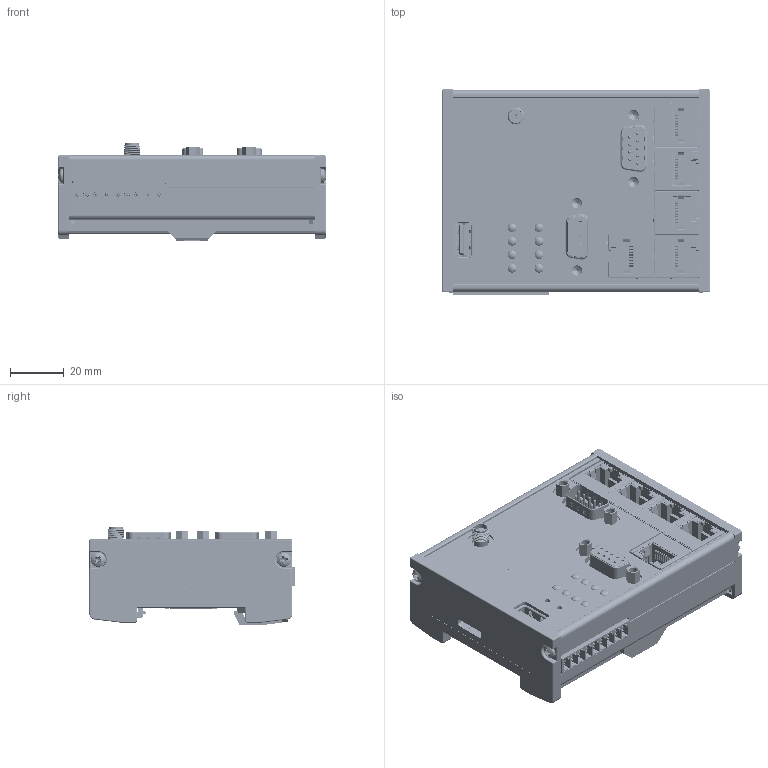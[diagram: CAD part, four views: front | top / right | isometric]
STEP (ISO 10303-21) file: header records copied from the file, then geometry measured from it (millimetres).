
FILE_DESCRIPTION (( 'STEP AP214' ), '1' );
FILE_NAME ('700-878-WIF01_V00-00.STEP', '2019-03-25T06:23:20', ( '' ), ( '' ), 'SwSTEP 2.0', 'SolidWorks 2018', '' );
FILE_SCHEMA (( 'AUTOMOTIVE_DESIGN' ));
Length unit declared in the file: millimetre
Products named in the file (59): Kopie von Kopie von Open CASCADE STEP translator 6.8 8.89.1.1^SMA-J-P-X-ST Dummy V00-00; g-alu-002_V00-00_RAL 6034; PLP2-xxx V00-11; m-k30x08-bj V 00-10; g-alu-086 V 00-03_cutout for 3.81 grid; Dummy_RJ45; SchraubefürHutschienenclip; 6917013400xxB_PIN; g-alu-086 V 00-03; ps-alu-004_V00-02_RAL 6034; Artikelnummer; g-mpi-010 V00-00; 09; D SUB 9P female - FL09S7-K121 (FCT); g-alu-002_V00-00; g-alu-001 V01-02; C-1734366-005; 700-878-WIF01_V00-00; SMA-J-P-X-ST Dummy V00-00; ps-alu-204_V00-03_WAN; D SUB 9P male - FL09P7-K120 (FCT); ps-alu-204_V00-03; ps-alu-004_V00-02; 691701340009B (rev1); PLP2-xxx V00-11_PLP2-125
Assembly tree (41 placements, depth 3):
  PLP2-xxx V00-11
  m-k30x08-bj V 00-10
  Dummy_RJ45
  6917013400xxB_PIN
  g-alu-086 V 00-03
Bounding box: 99.5 x 76.2 x 36.67 mm (x, y, z)
Volume: 68506.7 mm3; surface area: 92263.4 mm2
Topology: 76 solids, 76 shells, 6820 faces, 18020 edges, 11547 vertices
Faces by surface type: plane 4245, cylinder 1545, bspline 540, torus 213, cone 186, sphere 91
Entity records: 261253 total; most frequent: CARTESIAN_POINT 64618, ORIENTED_EDGE 32500, DIRECTION 29049, EDGE_CURVE 16250, VECTOR 11367, LINE 11367, VERTEX_POINT 10474, AXIS2_PLACEMENT_3D 8841
